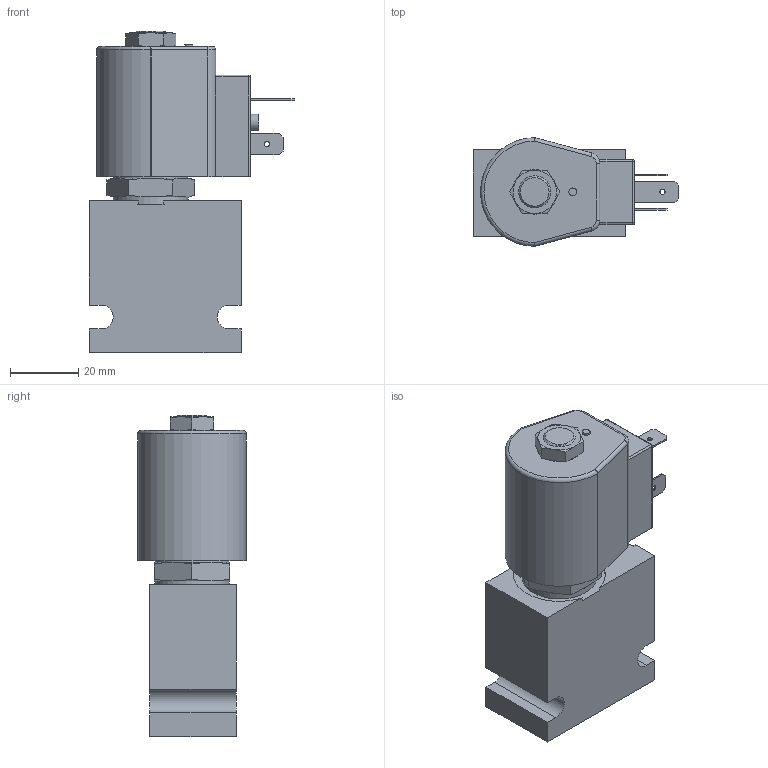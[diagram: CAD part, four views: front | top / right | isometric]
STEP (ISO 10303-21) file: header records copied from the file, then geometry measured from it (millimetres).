
FILE_DESCRIPTION( ( 'Unknown' ), '1' );
FILE_NAME( 'G:/Graphic Design/Graphic Design 2/Data Sheets/SOLENOID OPERATED VALVES/4_STEP/2W2P Normally Closed/HA-S2G00-A2.stp', 'Unknown', ( 'Unknown' ), ( 'Unknown' ), 'PSStep 15.0.49', 'Unknown', ' ' );
FILE_SCHEMA( ( 'AUTOMOTIVE_DESIGN { 1 0 10303 214 1 1 1 1 }' ) );
Length unit declared in the file: millimetre
Products named in the file (11): HAS2G00; HAS2G00-3D Full1; HAS2G00-3D Full2; HAS2G00-3D Full3; HAS2G00-3D Full4; HAS2G00-3D Full5; d-mhc; MHC; Assem1; B-DMAA2L; delta_3_8_nut1
Assembly tree (10 placements, depth 3):
  Assem1
    B-DMAA2L
    delta_3_8_nut1
    HAS2G00
      HAS2G00-3D Full1
      HAS2G00-3D Full2
      HAS2G00-3D Full3
      HAS2G00-3D Full4
      HAS2G00-3D Full5
    d-mhc
      MHC
Bounding box: 60.16 x 31.75 x 94.2 mm (x, y, z)
Volume: 83952.6 mm3; surface area: 25324.6 mm2
Topology: 8 solids, 8 shells, 265 faces, 616 edges, 388 vertices
Faces by surface type: plane 129, cylinder 66, cone 60, torus 6, sphere 4
Full cylindrical faces by diameter (mm): 0.2 x2, 1.524 x2, 1.536 x1, 1.714 x6, 2.286 x1, 2.362 x1, 3.175 x1, 4.763 x1, 5.537 x1, 6.099 x2, 6.109 x2, 6.3 x1, 7.595 x1, 8 x1, 8.181 x1, 8.379 x1, 9.402 x1, 9.525 x1, 9.842 x2, 9.893 x2, 11.5 x4, 12.586 x2, 12.624 x2, 12.7 x1, 13.081 x1, 13.805 x1, 14.348 x2, 16.48 x1, 21.844 x2, 22.22 x1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
Entity records: 9435 total; most frequent: CARTESIAN_POINT 1725, DIRECTION 1095, ORIENTED_EDGE 996, EDGE_CURVE 498, AXIS2_PLACEMENT_3D 455, EDGE_LOOP 405, VERTEX_POINT 361, FACE_OUTER_BOUND 312
